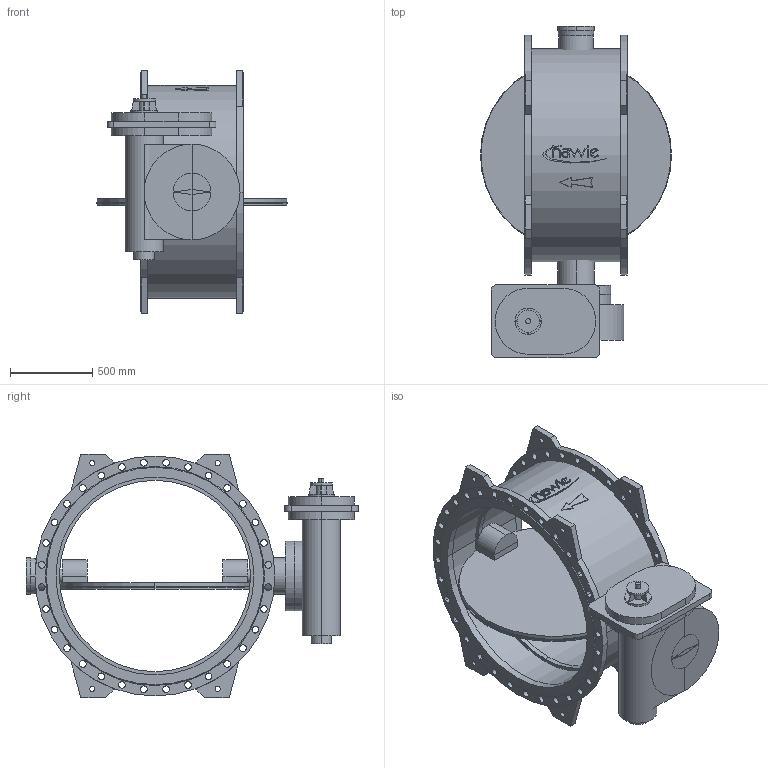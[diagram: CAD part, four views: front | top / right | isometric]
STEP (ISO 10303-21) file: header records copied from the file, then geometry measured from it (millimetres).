
FILE_DESCRIPTION(('STEP AP214'),'1');
FILE_NAME('S:/EK/USER/CAT6/3DHomepage_27-04-2012/neu_08-01-2013/9881K/9881K_PN10_DN1200.STP','2013-03-11T15:26:10',(' '),(' '),'Spatial InterOp 3D',' ',' ');
FILE_SCHEMA(('automotive_design'));
Length unit declared in the file: millimetre
Products named in the file (51): 3D-Objekt
Bounding box: 1158 x 2013 x 1476 mm (x, y, z)
Volume: 381433512.5 mm3; surface area: 16808589.9 mm2
Topology: 51 solids, 51 shells, 481 faces, 1128 edges, 752 vertices
Faces by surface type: cylinder 259, plane 216, cone 6
Entity records: 19327 total; most frequent: DIRECTION 2722, CARTESIAN_POINT 2412, ORIENTED_EDGE 2256, EDGE_CURVE 1128, AXIS2_PLACEMENT_3D 1062, VERTEX_POINT 752, EDGE_LOOP 640, LINE 598
